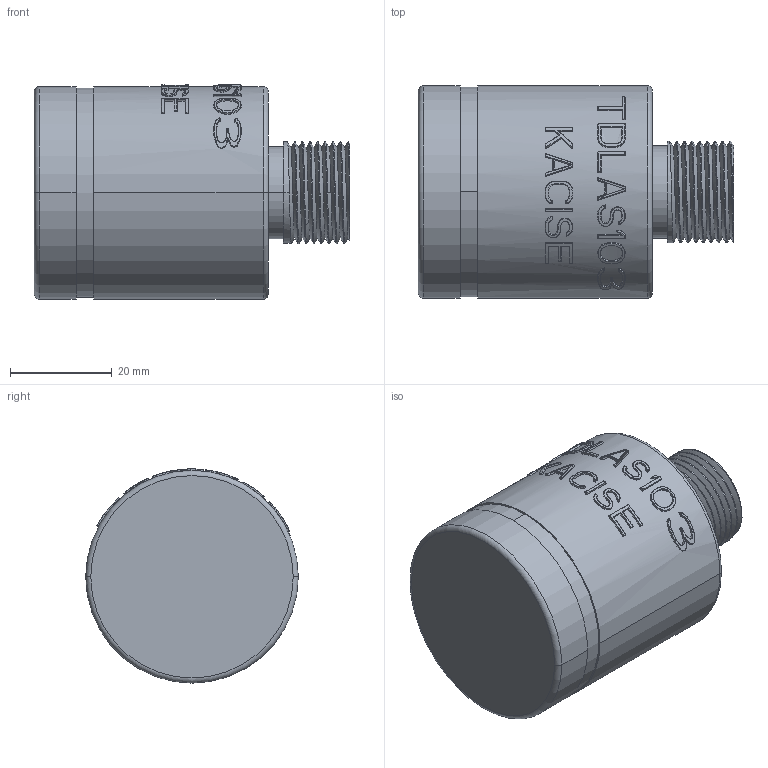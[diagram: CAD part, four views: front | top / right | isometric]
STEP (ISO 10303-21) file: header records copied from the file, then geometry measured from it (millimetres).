
FILE_DESCRIPTION((''),'2;1');
FILE_NAME('PRT0085','2025-12-31T09:50:36',('28740194'),(''),'CREO PARAMETRIC BY PTC INC, 2024063','CREO PARAMETRIC BY PTC INC, 2024063','');
FILE_SCHEMA(('CONFIG_CONTROL_DESIGN'));
Length unit declared in the file: millimetre
Products named in the file (1): PRT0085
Bounding box: 61.86 x 41.7 x 42.02 mm (x, y, z)
Surface area: 10481.1 mm2 (no closed solid volume)
Topology: 0 solids, 5 shells, 411 faces, 1177 edges, 787 vertices
Faces by surface type: bspline 356, cylinder 44, plane 7, torus 4
Entity records: 19487 total; most frequent: CARTESIAN_POINT 11427, ORIENTED_EDGE 2300, EDGE_CURVE 1175, B_SPLINE_CURVE_WITH_KNOTS 896, VERTEX_POINT 788, DIRECTION 548, EDGE_LOOP 432, FACE_OUTER_BOUND 411
